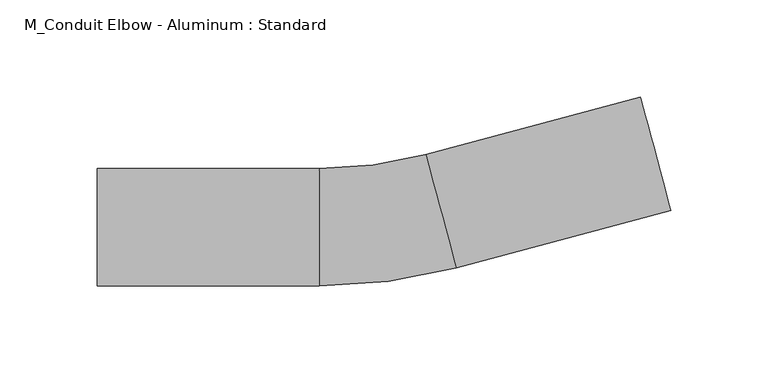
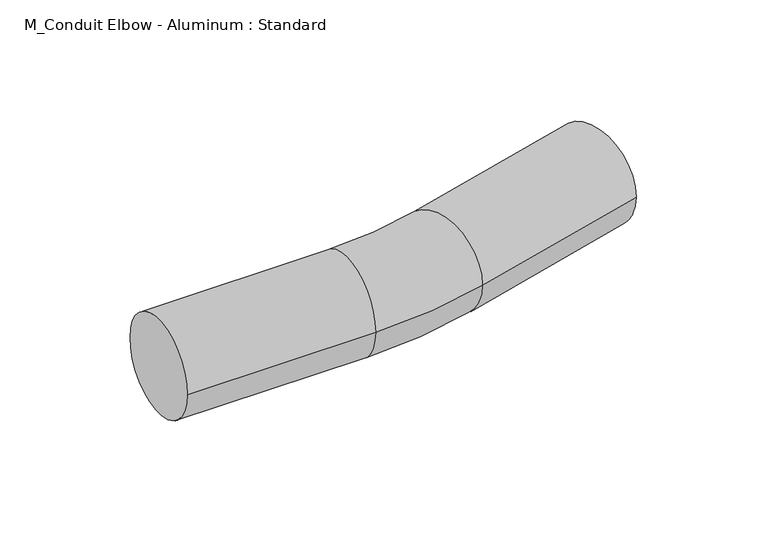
"""IFC4 building model written with IfcOpenShell, lengths in millimetres: cable carrier fitting geometry, M_Conduit Elbow - Aluminum : Standard."""

import ifcopenshell
import ifcopenshell.guid

model = None  # the IFC model being written
_history = None  # IfcOwnerHistory: only IFC2X3 demands one
_inside = {}  # id of a spatial element -> (the spatial element, [elements in it])
_under = {}  # id of a project, library or spatial element -> (it, [spatial elements below it])
_declared = {}  # id of a project -> (the project, [libraries it declares])
_typed = {}  # id of a type object -> (the type object, [elements of that type])
_made_of = {}  # id of a material, layer set ... -> (it, [elements and type objects made of it])


def new_model(schema):
    """Start an empty IFC model of exactly this schema.

    Asked for "IFC4X3", IfcOpenShell would pick the latest addendum, in which some entities
    have other attributes; the version numbers below select the first issue.
    IFC2X3 requires an IfcOwnerHistory on every rooted entity: one is made here for all.
    """
    global model, _history
    if schema == "IFC4X3":
        model = ifcopenshell.file(schema_version=(4, 3, 0, 0))
    else:
        model = ifcopenshell.file(schema=schema)
    _inside.clear()
    _under.clear()
    _declared.clear()
    _typed.clear()
    _made_of.clear()
    _history = None
    if model.schema == "IFC2X3":
        org = make("IfcOrganization", Name="unknown")
        user = make(
            "IfcPersonAndOrganization",
            ThePerson=make("IfcPerson", FamilyName="unknown"),
            TheOrganization=org,
        )
        app = make(
            "IfcApplication",
            ApplicationDeveloper=org,
            Version="unknown",
            ApplicationFullName="unknown",
            ApplicationIdentifier="unknown",
        )
        _history = make(
            "IfcOwnerHistory",
            OwningUser=user,
            OwningApplication=app,
            ChangeAction="ADDED",
            CreationDate=0,
        )
    return model


def make(cls, **values):
    """One entity of the class cls with the attributes given. An attribute that is None is left unset."""
    return model.create_entity(
        cls, **{name: value for name, value in values.items() if value is not None}
    )


def rooted(cls, **values):
    """An entity with a GlobalId (a new one), such as an element, a storey or a relation."""
    return make(cls, GlobalId=ifcopenshell.guid.new(), OwnerHistory=_history, **values)


def si_unit(unit_type, name, prefix=None):
    """IfcSIUnit, for example si_unit("LENGTHUNIT", "METRE", prefix="MILLI")."""
    return make("IfcSIUnit", UnitType=unit_type, Prefix=prefix, Name=name)


def assignment(units):
    """IfcUnitAssignment: the units of a project."""
    return None if units is None else make("IfcUnitAssignment", Units=units)


def point(xyz):
    """IfcCartesianPoint."""
    return None if xyz is None else make("IfcCartesianPoint", Coordinates=xyz)


def direction(xyz):
    """IfcDirection."""
    return None if xyz is None else make("IfcDirection", DirectionRatios=xyz)


def frame(location, z_axis=None, x_axis=None):
    """IfcAxis2Placement3D, a coordinate frame: its origin and axes. An axis left out is left unset."""
    return make(
        "IfcAxis2Placement3D",
        Location=point(location),
        Axis=direction(z_axis),
        RefDirection=direction(x_axis),
    )


def origin():
    """The frame at (0, 0, 0) with its axes left unset."""
    return frame((0.0, 0.0, 0.0))


def place(relative_to, where):
    """IfcLocalPlacement: puts the frame where relative to a parent placement (None: the world)."""
    return make(
        "IfcLocalPlacement", PlacementRelTo=relative_to, RelativePlacement=where
    )


def context(
    kind, dimensions, precision=None, world=None, true_north=None, identifier=None
):
    """IfcGeometricRepresentationContext, for example the 3D "Model" context."""
    return make(
        "IfcGeometricRepresentationContext",
        ContextIdentifier=identifier,
        ContextType=kind,
        CoordinateSpaceDimension=dimensions,
        Precision=precision,
        WorldCoordinateSystem=world,
        TrueNorth=true_north,
    )


def project(units=None, contexts=None):
    """IfcProject with its units and contexts."""
    return rooted(
        "IfcProject",
        Name="project",
        RepresentationContexts=contexts,
        UnitsInContext=assignment(units),
    )


def spatial(cls, under=None, at=None, **own):
    """A site, building, storey or space (cls), placed at a placement, below another one or the project."""
    s = rooted(cls, ObjectPlacement=at, **own)
    if under is not None:
        _under.setdefault(under.id(), (under, []))[1].append(s)
    return s


def circle_curve(where, radius):
    """IfcCircle in the frame where."""
    return make("IfcCircle", Position=where, Radius=radius)


def ellipse_curve(where, semi_axis1, semi_axis2):
    """IfcEllipse in the frame where."""
    return make(
        "IfcEllipse", Position=where, SemiAxis1=semi_axis1, SemiAxis2=semi_axis2
    )


def trimmed(basis, trim1, trim2, sense, master):
    """IfcTrimmedCurve: the piece of a basis curve between two trims."""
    return make(
        "IfcTrimmedCurve",
        BasisCurve=basis,
        Trim1=trim1,
        Trim2=trim2,
        SenseAgreement=sense,
        MasterRepresentation=master,
    )


def shape(context_of_items, identifier, shape_type, items):
    """IfcShapeRepresentation: the items that make up one representation, for example the "Body"."""
    return make(
        "IfcShapeRepresentation",
        ContextOfItems=context_of_items,
        RepresentationIdentifier=identifier,
        RepresentationType=shape_type,
        Items=items,
    )


def source(mapping_origin, context_of_items, identifier, shape_type, items):
    """IfcRepresentationMap: a shape defined once, which mapped items show again and again."""
    return make(
        "IfcRepresentationMap",
        MappingOrigin=mapping_origin,
        MappedRepresentation=shape(context_of_items, identifier, shape_type, items),
    )


def transform(
    local_origin,
    x_axis=None,
    y_axis=None,
    z_axis=None,
    scale=None,
    scale2=None,
    scale3=None,
    uniform=True,
):
    """IfcCartesianTransformationOperator3D, or its non-uniform kind. x_axis, y_axis, z_axis: its Axis1, 2, 3."""
    if uniform:
        return make(
            "IfcCartesianTransformationOperator3D",
            Axis1=direction(x_axis),
            Axis2=direction(y_axis),
            LocalOrigin=point(local_origin),
            Scale=scale,
            Axis3=direction(z_axis),
        )
    return make(
        "IfcCartesianTransformationOperator3DnonUniform",
        Axis1=direction(x_axis),
        Axis2=direction(y_axis),
        LocalOrigin=point(local_origin),
        Scale=scale,
        Axis3=direction(z_axis),
        Scale2=scale2,
        Scale3=scale3,
    )


def mapped(mapping_source, mapping_target):
    """IfcMappedItem: shows the shape of a source again, moved by a transform."""
    return make(
        "IfcMappedItem", MappingSource=mapping_source, MappingTarget=mapping_target
    )


def made_of(thing, what):
    """Note that an element or type object is made of a material, layer set ...; save() writes the relation."""
    if what is not None:
        _made_of.setdefault(what.id(), (what, []))[1].append(thing)
    return thing


def element(
    cls,
    number,
    at=None,
    inside=None,
    cuts=None,
    type_object=None,
    material=None,
    context=None,
    identifier="Body",
    shape_type=None,
    held_by="IfcProductDefinitionShape",
    body=None,
    shapes=None,
    **own,
):
    """One element of the class cls, such as IfcWall. Its Tag is "e" and its number.

    at: its placement. inside: the storey or other place that contains it. cuts: it is an
    opening in that element (IfcRelVoidsElement). A single representation is given by context,
    identifier, shape_type and body (its items); several are given by shapes. held_by: the class
    of the entity that holds the representations. save() writes the other relations.
    """
    e = rooted(cls, Tag="e%d" % number, ObjectPlacement=at, **own)
    if body is not None:
        shapes = [shape(context, identifier, shape_type, body)]
    if shapes is not None:
        e.Representation = make(held_by, Representations=shapes)
    if inside is not None:
        _inside.setdefault(inside.id(), (inside, []))[1].append(e)
    if cuts is not None:
        rooted(
            "IfcRelVoidsElement", RelatingBuildingElement=cuts, RelatedOpeningElement=e
        )
    if type_object is not None:
        _typed.setdefault(type_object.id(), (type_object, []))[1].append(e)
    return made_of(e, material)


def aggregate(whole, parts):
    """IfcRelAggregates: a whole, such as a stair, and the parts it consists of."""
    return rooted("IfcRelAggregates", RelatingObject=whole, RelatedObjects=parts)


def save(model, path):
    """Write the relations noted so far, then the file.

    IfcRelAggregates (storeys below a building ...), IfcRelContainedInSpatialStructure (elements
    in a storey), IfcRelDefinesByType, IfcRelAssociatesMaterial and IfcRelDeclares: one each for
    every whole, place, type object, material and project.
    """
    for whole, parts in _under.values():
        aggregate(whole, parts)
    for where, things in _inside.values():
        rooted(
            "IfcRelContainedInSpatialStructure",
            RelatedElements=things,
            RelatingStructure=where,
        )
    for kind, things in _typed.values():
        rooted("IfcRelDefinesByType", RelatedObjects=things, RelatingType=kind)
    for what, things in _made_of.values():
        rooted("IfcRelAssociatesMaterial", RelatedObjects=things, RelatingMaterial=what)
    for by, libraries in _declared.values():
        rooted("IfcRelDeclares", RelatingContext=by, RelatedDefinitions=libraries)
    model.write(path)


def plane_surface(at):
    """IfcPlane: the flat surface through the origin of the frame at, square to its z axis."""
    return make("IfcPlane", Position=at)


def cylinder_surface(at, radius):
    """IfcCylindricalSurface: all points at the distance radius from the z axis of the frame at."""
    return make("IfcCylindricalSurface", Position=at, Radius=radius)


def revolved_surface(curve, axis_point, axis_direction):
    """IfcSurfaceOfRevolution: the curve turned about the line through axis_point along axis_direction."""
    return make(
        "IfcSurfaceOfRevolution",
        SweptCurve=make("IfcArbitraryOpenProfileDef", ProfileType="CURVE", Curve=curve),
        AxisPosition=make("IfcAxis1Placement", Location=point(axis_point), Axis=direction(axis_direction)),
    )


def advanced_brep(points, edges, surfaces, faces):
    """IfcAdvancedBrep: a solid bounded by faces that lie on surfaces and meet in shared edges.

    An edge is (start, end): straight between two places in points (the first is 0);
    or (start, end, curve); or (start, end, curve, False) where it runs against its curve.
    A face is (place in surfaces, loops), or (place, loops, False) where it looks against
    its surface's normal. A loop lists edges by number (the first is 1), with a minus sign
    where the edge is run from its end to its start. The first loop is the outer one.
    """
    corners = [point(p) for p in points]
    vertices = [make("IfcVertexPoint", VertexGeometry=c) for c in corners]
    made = []
    for start, end, *more in edges:
        made.append(
            make(
                "IfcEdgeCurve",
                EdgeStart=vertices[start],
                EdgeEnd=vertices[end],
                EdgeGeometry=more[0] if more else make("IfcPolyline", Points=[corners[start], corners[end]]),
                SameSense=more[1] if len(more) > 1 else True,
            )
        )
    hull = []
    for where, loops, *sense in faces:
        bounds = []
        for j, loop in enumerate(loops):
            ring = [make("IfcOrientedEdge", EdgeElement=made[abs(k) - 1], Orientation=k > 0) for k in loop]
            bounds.append(
                make(
                    "IfcFaceOuterBound" if j == 0 else "IfcFaceBound",
                    Bound=make("IfcEdgeLoop", EdgeList=ring),
                    Orientation=True,
                )
            )
        hull.append(make("IfcAdvancedFace", Bounds=bounds, FaceSurface=surfaces[where], SameSense=sense[0] if sense else True))
    return make("IfcAdvancedBrep", Outer=make("IfcClosedShell", CfsFaces=hull))


def m_conduit_elbow_aluminum_standard_cf803244(model_context):
    return source(origin(), model_context, "Body", "AdvancedBrep", [
        advanced_brep(
        [(-146.0677477, -30.1625, 0.0), (-146.0677477, 30.1625, 0.0), (-31.7677477, -30.1625, 0.0), (-31.7677477, 30.1625, 0.0), (22.8786585, 37.3568359, 0.0), (38.4919174, -20.9126396, 0.0), (148.8972394, 8.6703773, 0.0), (133.2839804, 66.9398528, 0.0)],
        [
            (0, 1, circle_curve(frame((-146.0677477, 0.0, 0.0), z_axis=(-1.0, 0.0, 0.0), x_axis=(0.0, 1.0, 0.0)), 30.1625)),
            (1, 0, circle_curve(frame((-146.0677477, 0.0, 0.0), z_axis=(-1.0, 0.0, 0.0), x_axis=(0.0, 1.0, 0.0)), 30.1625)),
            (0, 2),
            (2, 3, circle_curve(frame((-31.7677477, 0.0, 0.0), z_axis=(-1.0, 0.0, 0.0), x_axis=(0.0, 1.0, 0.0)), 30.1625)),
            (3, 1),
            (3, 2, circle_curve(frame((-31.7677477, 0.0, 0.0), z_axis=(-1.0, 0.0, 0.0), x_axis=(0.0, 1.0, 0.0)), 30.1625)),
            (4, 3, circle_curve(frame((-31.7677477, 241.3, 0.0), z_axis=(0.0, 0.0, -1.0), x_axis=(0.0, -1.0, 0.0)), 211.1375)),
            (2, 5, circle_curve(frame((-31.7677477, 241.3, 0.0), z_axis=(0.0, 0.0, 1.0), x_axis=(0.0, -1.0, 0.0)), 271.4625)),
            (5, 4, circle_curve(frame((30.685288, 8.2220982, 0.0), z_axis=(-0.9659258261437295, -0.25881904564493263, 0.0), x_axis=(-0.25881904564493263, 0.9659258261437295, 0.0)), 30.1625)),
            (4, 5, circle_curve(frame((30.685288, 8.2220982, 0.0), z_axis=(-0.9659258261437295, -0.25881904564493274, 0.0), x_axis=(-0.25881904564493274, 0.9659258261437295, 0.0)), 30.1625)),
            (6, 7, circle_curve(frame((141.0906099, 37.8051151, 0.0), z_axis=(0.9659258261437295, 0.2588190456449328, 0.0), x_axis=(-0.2588190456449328, 0.9659258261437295, 0.0)), 30.1625)),
            (7, 6, circle_curve(frame((141.0906099, 37.8051151, 0.0), z_axis=(0.9659258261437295, 0.2588190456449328, 0.0), x_axis=(-0.2588190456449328, 0.9659258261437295, 0.0)), 30.1625)),
            (5, 6),
            (7, 4),
        ],
        [
            plane_surface(frame((-146.0677477, 0.0, 0.0), z_axis=(-1.0, 0.0, 0.0), x_axis=(0.0, 0.0, 1.0))),
            cylinder_surface(frame((-146.0677477, 0.0, 0.0), z_axis=(-1.0, 0.0, 0.0), x_axis=(0.0, 1.0, 0.0)), 30.1625),
            revolved_surface(trimmed(ellipse_curve(frame((-31.7677477, 0.0, 0.0), z_axis=(-1.0, 0.0, 0.0), x_axis=(0.0, 1.0, 0.0)), 30.1625, 30.1625), [point((-31.7677477, -30.1625, 0.0))], [point((-31.7677477, 30.1625, 0.0))], True, "CARTESIAN"), (-31.7677477, 241.3, 0.0), (0.0, 0.0, 1.0)),
            revolved_surface(trimmed(ellipse_curve(frame((-31.7677477, 0.0, 0.0), z_axis=(-1.0, 0.0, 0.0), x_axis=(0.0, 1.0, 0.0)), 30.1625, 30.1625), [point((-31.7677477, 30.1625, 0.0))], [point((-31.7677477, -30.1625, 0.0))], True, "CARTESIAN"), (-31.7677477, 241.3, 0.0), (0.0, 0.0, 1.0)),
            plane_surface(frame((141.0906099, 37.8051151, 0.0), z_axis=(0.9659258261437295, 0.2588190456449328, 0.0), x_axis=(0.0, 0.0, 1.0))),
            cylinder_surface(frame((30.685288, 8.2220982, 0.0), z_axis=(-0.9659258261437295, -0.2588190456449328, 0.0), x_axis=(-0.2588190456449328, 0.9659258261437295, 0.0)), 30.1625),
        ],
        [
            (0, [[1, 2]]),
            (1, [[-1, 3, 4, 5]]),
            (1, [[-2, -5, 6, -3]]),
            (2, [[7, -4, 8, 9]]),
            (3, [[-8, -6, -7, 10]]),
            (4, [[11, 12]]),
            (5, [[-9, 13, -12, 14]]),
            (5, [[-10, -14, -11, -13]]),
        ],
    ),
    ])


if __name__ == "__main__":
    model = new_model("IFC4")
    model_context = context("Model", 3, world=origin())
    ifc_project = project(units=[si_unit("LENGTHUNIT", "METRE", prefix="MILLI")], contexts=[model_context])
    site = spatial("IfcSite", under=ifc_project)
    building = spatial("IfcBuilding", under=site)
    placement = place(None, origin())
    m_conduit_elbow_aluminum_standard_shape = m_conduit_elbow_aluminum_standard_cf803244(model_context)
    element("IfcCableCarrierFitting", 1, ObjectType="M_Conduit Elbow - Aluminum : Standard", at=placement, inside=building, context=model_context, shape_type="MappedRepresentation", body=[
        mapped(m_conduit_elbow_aluminum_standard_shape, transform((0.0, 0.0, 0.0), x_axis=(1.0, 0.0, 0.0), y_axis=(0.0, 1.0, 0.0), z_axis=(0.0, 0.0, 1.0))),
    ])
    save(model, "model.ifc")
